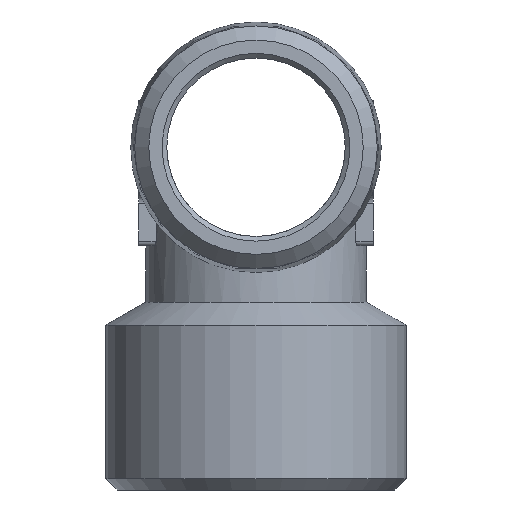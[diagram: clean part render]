
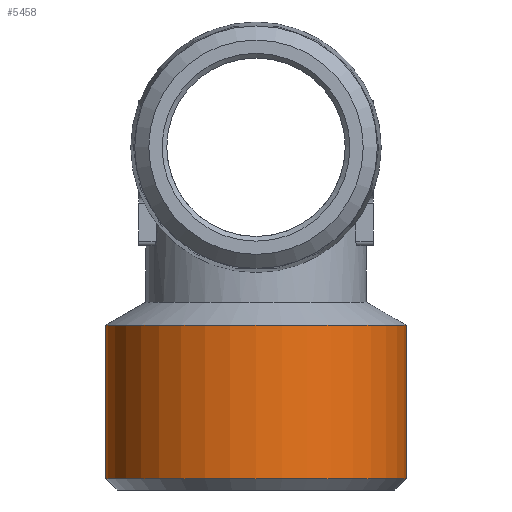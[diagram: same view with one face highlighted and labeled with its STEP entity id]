
A CAD part, left-side view. The second image highlights one B-rep face of the part: STEP entity #5458.
In plain terms, the highlighted cylindrical face has radius 16 mm (diameter 32 mm), a full revolution.
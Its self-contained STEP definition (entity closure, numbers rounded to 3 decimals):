
#1435=CYLINDRICAL_SURFACE('',#5377,16.);
#1576=ORIENTED_EDGE('',*,*,#1911,.F.);
#1577=ORIENTED_EDGE('',*,*,#1910,.T.);
#1726=CIRCLE('',#5376,16.);
#1727=CIRCLE('',#5378,16.);
#1808=VERTEX_POINT('',#5222);
#1809=VERTEX_POINT('',#5225);
#1910=EDGE_CURVE('',#1808,#1808,#1726,.T.);
#1911=EDGE_CURVE('',#1809,#1809,#1727,.T.);
#1997=EDGE_LOOP('',(#1576));
#1998=EDGE_LOOP('',(#1577));
#2075=FACE_BOUND('',#1997,.T.);
#2076=FACE_BOUND('',#1998,.T.);
#2255=DIRECTION('',(0.,-1.,0.));
#2256=DIRECTION('',(0.,0.,16.));
#2257=DIRECTION('',(0.,1.,0.));
#2258=DIRECTION('',(1.,0.,0.));
#2259=DIRECTION('',(0.,-1.,0.));
#2260=DIRECTION('',(0.,0.,16.));
#5222=CARTESIAN_POINT('',(22.49,40.015,16.));
#5223=CARTESIAN_POINT('',(22.49,40.015,0.));
#5224=CARTESIAN_POINT('',(22.49,23.669,0.));
#5225=CARTESIAN_POINT('',(22.49,23.669,16.));
#5226=CARTESIAN_POINT('',(22.49,23.669,0.));
#5376=AXIS2_PLACEMENT_3D('',#5223,#2255,#2256);
#5377=AXIS2_PLACEMENT_3D('',#5224,#2257,#2258);
#5378=AXIS2_PLACEMENT_3D('',#5226,#2259,#2260);
#5458=ADVANCED_FACE('',(#2075,#2076),#1435,.T.);
